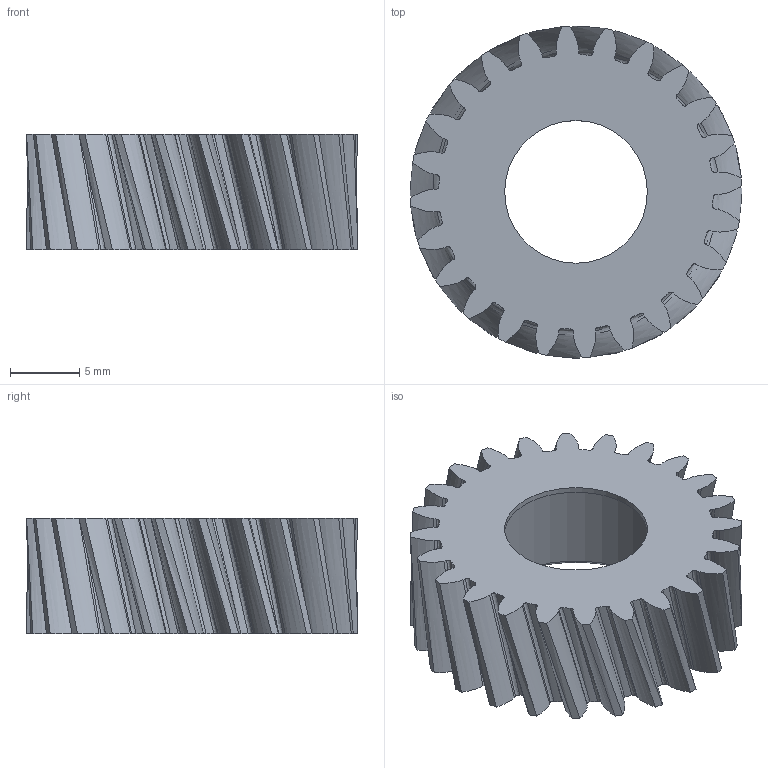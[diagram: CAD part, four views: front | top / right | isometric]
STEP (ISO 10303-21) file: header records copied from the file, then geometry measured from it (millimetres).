
FILE_DESCRIPTION(/* description */ ('STEP AP242 Edition 2','CAx-IF Rec.Pracs.---Representation and Presentation of Product Manufacturing Information (PMI)---4.0---2014-10-13','CAx-IF Rec.Pracs.---3D Tessellated Geometry---0.4---2014-09-14','2;1','CAx-IF Rec.Pracs.---User Defined Attributes---1.5---2016-08-15'),/* implementation_level */ '2;1');
FILE_NAME(/* name */ 'Main - Planet Gear',/* time_stamp */ '2026-07-24T17:05:34Z',/* author */ (''),/* organization */ (''),/* preprocessor_version */ 'ST-DEVELOPER v20',/* originating_system */ 'ONSHAPE BY PTC INC, 1.218',/* authorisation */ ' ');
FILE_SCHEMA (('AP242_MANAGED_MODEL_BASED_3D_ENGINEERING_MIM_LF { 1 0 10303 442 3 1 4 }'));
Length unit declared in the file: metre
Products named in the file (1): Planet Gear
Bounding box: 24.01 x 24.01 x 8.33 mm (x, y, z)
Volume: 1802.1 mm3; surface area: 2136.9 mm2
Topology: 1 solids, 1 shells, 198 faces, 584 edges, 389 vertices
Faces by surface type: bspline 168, cylinder 26, plane 3, cone 1
Full cylindrical faces by diameter (mm): 10.319 x1, 14.415 x1
Entity records: 10436 total; most frequent: CARTESIAN_POINT 6761, ORIENTED_EDGE 1162, EDGE_CURVE 581, VERTEX_POINT 389, B_SPLINE_CURVE_WITH_KNOTS 360, DIRECTION 240, EDGE_LOOP 204, FACE_BOUND 204
